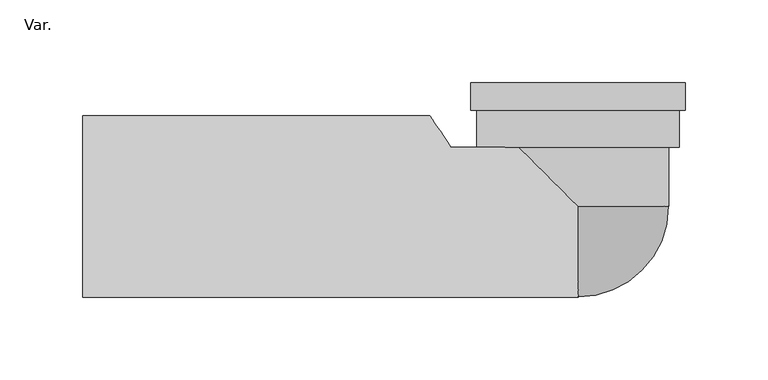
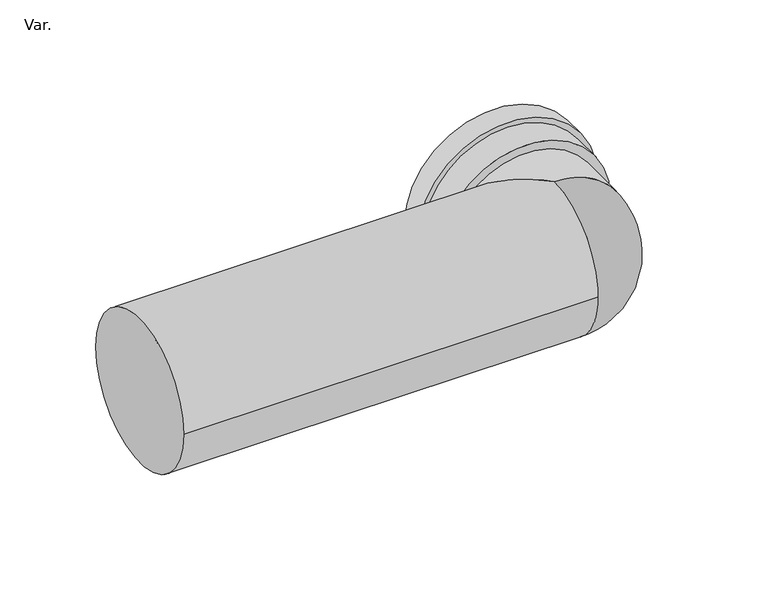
"""IFC4 building model written with IfcOpenShell, lengths in millimetres: pipe fitting geometry, NLRS_52_PIF_UN_HDPE wall lavatory bend_Akatherm : Var.."""

from ifc_helpers import new_model, si_unit, point, frame, origin, origin_2d, place, context, project, spatial, circle_curve, ellipse_curve, trimmed, segment, composite_curve, outline, extrude, source, transform, mapped, element, save
from ifc_brep_helpers import plane_surface, cylinder_surface, revolved_surface, advanced_brep


def var_6e64f8e0(model_context):
    return source(origin(), model_context, "Body", "SolidModel", [
        advanced_brep(
        [(-77.0, 35.8, -41.7535627), (-77.0, 35.8, 41.7535627), (-35.8, 35.8, 41.7535627), (55.0, 35.8, 0.0), (-35.8, 35.8, -41.7535627), (55.0, 0.0, 0.0), (0.0, 0.0, 55.0), (0.0, 0.0, -55.0), (0.0, -55.0, 0.0), (-89.8571429, 55.0, 0.0), (-300.0, -55.0, 0.0), (-300.0, 55.0, 0.0)],
        [
            (0, 1),
            (1, 2),
            (2, 3, circle_curve(frame((0.0, 35.8, 0.0), z_axis=(0.0, 1.0, 0.0), x_axis=(-1.0, 0.0, 0.0)), 55.0)),
            (3, 4, circle_curve(frame((0.0, 35.8, 0.0), z_axis=(0.0, 1.0, 0.0), x_axis=(-1.0, 0.0, 0.0)), 55.0)),
            (4, 0),
            (5, 3),
            (2, 6, ellipse_curve(frame((0.0, 0.0, 0.0), z_axis=(0.707106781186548, 0.7071067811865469, 0.0), x_axis=(0.7071067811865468, -0.7071067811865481, 0.0)), 77.7817459, 55.0)),
            (6, 5, circle_curve(frame((0.0, 0.0, 0.0), z_axis=(0.0, 1.0, 0.0), x_axis=(-1.0, 0.0, 0.0)), 55.0)),
            (5, 7, circle_curve(frame((0.0, 0.0, 0.0), z_axis=(0.0, 1.0, 0.0), x_axis=(-1.0, 0.0, 0.0)), 55.0)),
            (7, 4, ellipse_curve(frame((0.0, 0.0, 0.0), z_axis=(0.707106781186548, 0.7071067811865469, 0.0), x_axis=(0.7071067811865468, -0.7071067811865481, 0.0)), 77.7817459, 55.0)),
            (6, 8, circle_curve(frame((0.0, 0.0, 0.0), z_axis=(1.0, 0.0, 0.0), x_axis=(0.0, 1.0, 0.0)), 55.0)),
            (8, 7, circle_curve(frame((0.0, 0.0, 0.0), z_axis=(1.0, 0.0, 0.0), x_axis=(0.0, 1.0, 0.0)), 55.0)),
            (0, 9, ellipse_curve(frame((-53.0267857, 0.0, 0.0), z_axis=(0.8309071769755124, 0.5564110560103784, 0.0), x_axis=(0.5564110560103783, -0.8309071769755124, 0.0)), 66.1927126, 55.0)),
            (9, 1, ellipse_curve(frame((-53.0267857, 0.0, 0.0), z_axis=(0.8309071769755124, 0.5564110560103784, 0.0), x_axis=(0.5564110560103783, -0.8309071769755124, 0.0)), 66.1927126, 55.0)),
            (10, 11, circle_curve(frame((-300.0, 0.0, 0.0), z_axis=(-1.0, 0.0, 0.0), x_axis=(0.0, 1.0, 0.0)), 55.0)),
            (11, 10, circle_curve(frame((-300.0, 0.0, 0.0), z_axis=(-1.0, 0.0, 0.0), x_axis=(0.0, 1.0, 0.0)), 55.0)),
            (11, 9),
            (8, 10),
        ],
        [
            plane_surface(frame((0.0, 35.8, 0.0), z_axis=(0.0, 1.0, 0.0), x_axis=(0.0, 0.0, 1.0))),
            cylinder_surface(frame((0.0, 0.0, 0.0), z_axis=(0.0, -1.0, 0.0), x_axis=(-1.0, 0.0, 0.0)), 55.0),
            revolved_surface(trimmed(ellipse_curve(frame((0.0, 0.0, 0.0), z_axis=(-1.0, 0.0, 0.0), x_axis=(0.0, 1.0, 0.0)), 55.0, 55.0), [point((0.0, 0.0, -55.0))], [point((0.0, 0.0, 55.0))], True, "CARTESIAN"), (0.0, 0.0, 210.7142857), (0.0, 0.0, 1.0)),
            plane_surface(frame((-77.0, 35.8, -55.0), z_axis=(0.8309071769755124, 0.5564110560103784, 0.0), x_axis=(0.0, 0.0, 1.0))),
            plane_surface(frame((-300.0, 55.0, 0.0), z_axis=(-1.0, 0.0, 0.0), x_axis=(0.0, 0.0, -1.0))),
            cylinder_surface(frame((-300.0, 0.0, 0.0), z_axis=(1.0, 0.0, 0.0), x_axis=(0.0, 1.0, 0.0)), 55.0),
        ],
        [
            (0, [[1, 2, 3, 4, 5]]),
            (1, [[6, -3, 7, 8]]),
            (1, [[-6, 9, 10, -4]]),
            (2, [[-8, 11, 12, -9]]),
            (3, [[-1, 13, 14]]),
            (4, [[15, 16]]),
            (5, [[-16, 17, -13, -5, -10, -12, 18]]),
            (5, [[-15, -18, -11, -7, -2, -14, -17]]),
        ],
    ),
        extrude(outline(composite_curve([segment(trimmed(circle_curve(origin_2d(), 61.2), [point((0.0, 61.2))], [point((0.0, -61.2))], False, "CARTESIAN"), True, "CONTINUOUS"), segment(trimmed(circle_curve(origin_2d(), 61.2), [point((0.0, -61.2))], [point((0.0, 61.2))], False, "CARTESIAN"), True, "CONTINUOUS")], self_intersect=False)), frame((0.0, 35.8, 0.0), z_axis=(0.0, 1.0, 0.0), x_axis=(0.0, 0.0, 1.0)), (0.0, 0.0, 1.0), 22.4),
        extrude(outline(composite_curve([segment(trimmed(circle_curve(origin_2d(), 65.0), [point((0.0, 65.0))], [point((0.0, -65.0))], False, "CARTESIAN"), True, "CONTINUOUS"), segment(trimmed(circle_curve(origin_2d(), 65.0), [point((0.0, -65.0))], [point((0.0, 65.0))], False, "CARTESIAN"), True, "CONTINUOUS")], self_intersect=False)), frame((0.0, 58.2, 0.0), z_axis=(0.0, 1.0, 0.0), x_axis=(0.0, 0.0, 1.0)), (0.0, 0.0, 1.0), 16.8),
    ])


if __name__ == "__main__":
    model = new_model("IFC4")
    model_context = context("Model", 3, world=origin())
    ifc_project = project(units=[si_unit("LENGTHUNIT", "METRE", prefix="MILLI")], contexts=[model_context])
    site = spatial("IfcSite", under=ifc_project)
    building = spatial("IfcBuilding", under=site)
    placement = place(None, origin())
    var_shape = var_6e64f8e0(model_context)
    element("IfcPipeFitting", 1, ObjectType="NLRS_52_PIF_UN_HDPE wall lavatory bend_Akatherm : Var.", at=placement, inside=building, context=model_context, shape_type="MappedRepresentation", body=[
        mapped(var_shape, transform((0.0, 0.0, 0.0), x_axis=(1.0, 0.0, 0.0), y_axis=(0.0, 1.0, 0.0), z_axis=(0.0, 0.0, 1.0))),
    ])
    save(model, "model.ifc")
